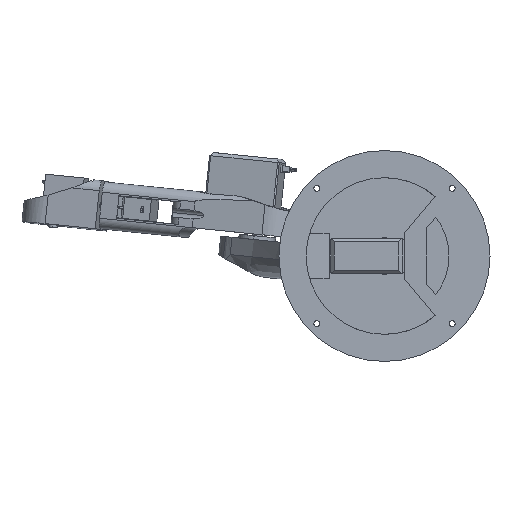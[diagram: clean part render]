
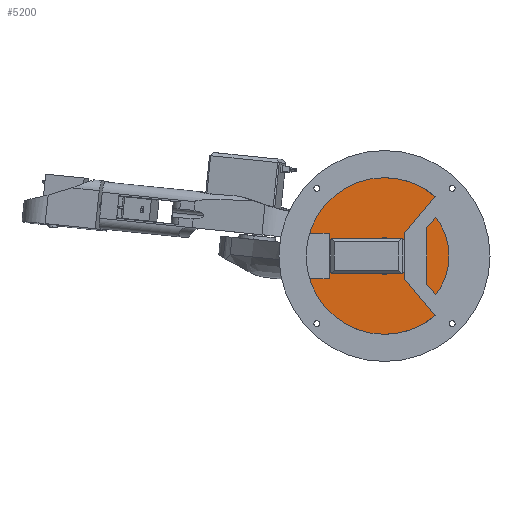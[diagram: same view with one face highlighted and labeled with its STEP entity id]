
A CAD part, front view. The second image highlights one B-rep face of the part: STEP entity #5200.
In plain terms, the highlighted planar face has unit normal (0, -1, 0).
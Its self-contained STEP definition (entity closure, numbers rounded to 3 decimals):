
#669 = AXIS2_PLACEMENT_3D ( 'NONE', #20061, #17892, #9102 ) ;
#1233 = ORIENTED_EDGE ( 'NONE', *, *, #5614, .F. ) ;
#2308 = DIRECTION ( 'NONE',  ( 0., -1., 0. ) ) ;
#2522 = AXIS2_PLACEMENT_3D ( 'NONE', #22916, #10508, #2950 ) ;
#2577 = AXIS2_PLACEMENT_3D ( 'NONE', #6849, #21706, #14514 ) ;
#2950 = DIRECTION ( 'NONE',  ( 0., 0., -1. ) ) ;
#3101 = CARTESIAN_POINT ( 'NONE',  ( 0., 0., -8.75 ) ) ;
#3420 = AXIS2_PLACEMENT_3D ( 'NONE', #16562, #14961, #22391 ) ;
#3428 = DIRECTION ( 'NONE',  ( 0., 0., 1. ) ) ;
#3514 = DIRECTION ( 'NONE',  ( 0., 0., -1. ) ) ;
#3982 = ORIENTED_EDGE ( 'NONE', *, *, #21854, .F. ) ;
#4524 = EDGE_CURVE ( 'NONE', #13308, #14362, #11182, .T. ) ;
#4595 = ORIENTED_EDGE ( 'NONE', *, *, #15314, .F. ) ;
#4974 = AXIS2_PLACEMENT_3D ( 'NONE', #20545, #12984, #20296 ) ;
#5200 = ADVANCED_FACE ( 'NONE', ( #18632, #18383, #20322, #22512 ), #18506, .F. ) ;
#5614 = EDGE_CURVE ( 'NONE', #10075, #22320, #18597, .T. ) ;
#5735 = CIRCLE ( 'NONE', #6519, 3.75 ) ;
#5895 = ORIENTED_EDGE ( 'NONE', *, *, #11138, .F. ) ;
#6495 = EDGE_CURVE ( 'NONE', #14362, #13308, #22040, .T. ) ;
#6519 = AXIS2_PLACEMENT_3D ( 'NONE', #18982, #2308, #9255 ) ;
#6849 = CARTESIAN_POINT ( 'NONE',  ( 0., 0., 0. ) ) ;
#6971 = CARTESIAN_POINT ( 'NONE',  ( 0., 0., -5.75 ) ) ;
#7109 = EDGE_LOOP ( 'NONE', ( #5895, #1233 ) ) ;
#7945 = CARTESIAN_POINT ( 'NONE',  ( 0., 0., 3.75 ) ) ;
#8015 = CIRCLE ( 'NONE', #2577, 3.75 ) ;
#8846 = CARTESIAN_POINT ( 'NONE',  ( 0., 0., -3.75 ) ) ;
#9102 = DIRECTION ( 'NONE',  ( 0., 0., -1. ) ) ;
#9255 = DIRECTION ( 'NONE',  ( 0., 0., -1. ) ) ;
#9548 = AXIS2_PLACEMENT_3D ( 'NONE', #14585, #20192, #3514 ) ;
#9862 = VERTEX_POINT ( 'NONE', #21226 ) ;
#10075 = VERTEX_POINT ( 'NONE', #16209 ) ;
#10219 = CARTESIAN_POINT ( 'NONE',  ( 0., 0., -48.5 ) ) ;
#10508 = DIRECTION ( 'NONE',  ( 0., -1., 0. ) ) ;
#10718 = CIRCLE ( 'NONE', #9548, 1.5 ) ;
#11138 = EDGE_CURVE ( 'NONE', #22320, #10075, #20396, .T. ) ;
#11182 = CIRCLE ( 'NONE', #22816, 1.5 ) ;
#11756 = CARTESIAN_POINT ( 'NONE',  ( 0., 0., 8.75 ) ) ;
#12308 = ORIENTED_EDGE ( 'NONE', *, *, #4524, .F. ) ;
#12540 = EDGE_CURVE ( 'NONE', #17538, #9862, #10718, .T. ) ;
#12796 = DIRECTION ( 'NONE',  ( 0., 1., 0. ) ) ;
#12984 = DIRECTION ( 'NONE',  ( 0., 1., 0. ) ) ;
#13009 = CIRCLE ( 'NONE', #2522, 1.5 ) ;
#13308 = VERTEX_POINT ( 'NONE', #3101 ) ;
#13417 = ORIENTED_EDGE ( 'NONE', *, *, #12540, .F. ) ;
#13673 = DIRECTION ( 'NONE',  ( 0., 0., -1. ) ) ;
#14362 = VERTEX_POINT ( 'NONE', #6971 ) ;
#14514 = DIRECTION ( 'NONE',  ( 0., 0., -1. ) ) ;
#14585 = CARTESIAN_POINT ( 'NONE',  ( 0., 0., 7.25 ) ) ;
#14961 = DIRECTION ( 'NONE',  ( 0., 1., 0. ) ) ;
#15314 = EDGE_CURVE ( 'NONE', #16826, #16444, #8015, .T. ) ;
#15933 = EDGE_CURVE ( 'NONE', #16444, #16826, #5735, .T. ) ;
#16209 = CARTESIAN_POINT ( 'NONE',  ( 0., 0., 48.5 ) ) ;
#16444 = VERTEX_POINT ( 'NONE', #8846 ) ;
#16486 = EDGE_LOOP ( 'NONE', ( #20579, #4595 ) ) ;
#16562 = CARTESIAN_POINT ( 'NONE',  ( 0., 0., 0. ) ) ;
#16826 = VERTEX_POINT ( 'NONE', #7945 ) ;
#17538 = VERTEX_POINT ( 'NONE', #11756 ) ;
#17571 = CARTESIAN_POINT ( 'NONE',  ( 0., 0., -7.25 ) ) ;
#17892 = DIRECTION ( 'NONE',  ( 0., -1., 0. ) ) ;
#18383 = FACE_BOUND ( 'NONE', #22531, .T. ) ;
#18506 = PLANE ( 'NONE',  #3420 ) ;
#18597 = CIRCLE ( 'NONE', #4974, 48.5 ) ;
#18632 = FACE_BOUND ( 'NONE', #16486, .T. ) ;
#18849 = ORIENTED_EDGE ( 'NONE', *, *, #6495, .F. ) ;
#18982 = CARTESIAN_POINT ( 'NONE',  ( 0., 0., 0. ) ) ;
#20061 = CARTESIAN_POINT ( 'NONE',  ( 0., 0., -7.25 ) ) ;
#20192 = DIRECTION ( 'NONE',  ( 0., -1., 0. ) ) ;
#20296 = DIRECTION ( 'NONE',  ( 0., 0., 1. ) ) ;
#20322 = FACE_BOUND ( 'NONE', #20468, .T. ) ;
#20396 = CIRCLE ( 'NONE', #23099, 48.5 ) ;
#20468 = EDGE_LOOP ( 'NONE', ( #12308, #18849 ) ) ;
#20545 = CARTESIAN_POINT ( 'NONE',  ( 0., 0., 0. ) ) ;
#20579 = ORIENTED_EDGE ( 'NONE', *, *, #15933, .F. ) ;
#21226 = CARTESIAN_POINT ( 'NONE',  ( 0., 0., 5.75 ) ) ;
#21706 = DIRECTION ( 'NONE',  ( 0., -1., 0. ) ) ;
#21854 = EDGE_CURVE ( 'NONE', #9862, #17538, #13009, .T. ) ;
#22040 = CIRCLE ( 'NONE', #669, 1.5 ) ;
#22320 = VERTEX_POINT ( 'NONE', #10219 ) ;
#22391 = DIRECTION ( 'NONE',  ( 0., 0., 1. ) ) ;
#22512 = FACE_OUTER_BOUND ( 'NONE', #7109, .T. ) ;
#22531 = EDGE_LOOP ( 'NONE', ( #3982, #13417 ) ) ;
#22816 = AXIS2_PLACEMENT_3D ( 'NONE', #17571, #22925, #13673 ) ;
#22916 = CARTESIAN_POINT ( 'NONE',  ( 0., 0., 7.25 ) ) ;
#22925 = DIRECTION ( 'NONE',  ( 0., -1., 0. ) ) ;
#23099 = AXIS2_PLACEMENT_3D ( 'NONE', #23862, #12796, #3428 ) ;
#23862 = CARTESIAN_POINT ( 'NONE',  ( 0., 0., 0. ) ) ;
